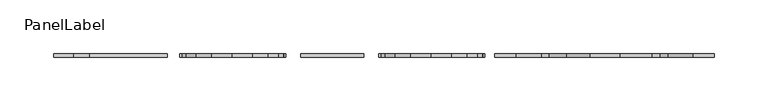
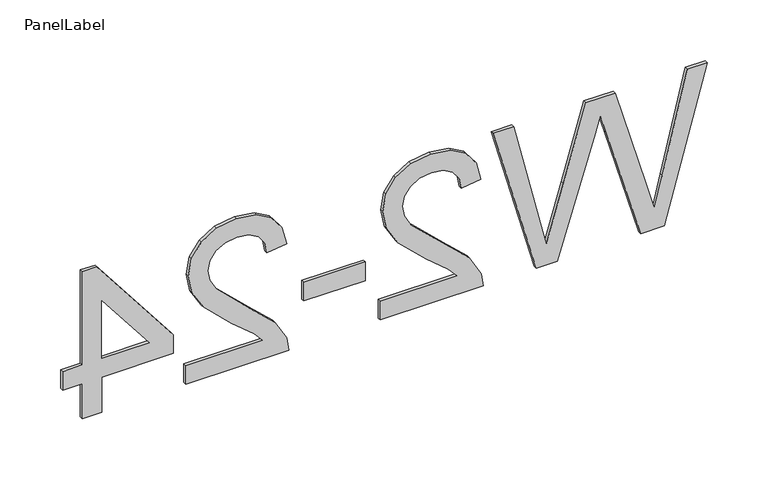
"""IFC4 building model written with IfcOpenShell, lengths in millimetres: fastener geometry, PanelLabel : Miranda."""

from ifc_helpers import new_model, si_unit, frame, origin, place, context, project, spatial, polyline, outline, extrude, source, transform, mapped, element, save


def panellabel_ff9b96a9(model_context):
    return source(origin(), model_context, "Body", "SweptSolid", [
        extrude(outline(polyline([(1310.9113766, 268.5683654), (1460.9667612, 309.4892308), (1460.9667612, 290.1461538), (1362.3463766, 266.4069231), (1331.9030112, 259.08), (1358.8294535, 251.2401923), (1460.9667612, 221.4928846), (1460.9667612, 193.6139423), (1386.9282035, 171.9995192), (1331.9030112, 155.9169231), (1361.4671458, 148.8098077), (1460.9667612, 124.8507692), (1460.9667612, 105.5076923), (1310.9113766, 146.4651923), (1310.9113766, 166.5043269), (1426.6767612, 202.4795192), (1442.8326266, 207.4984615), (1423.3796458, 213.1401923), (1310.9113766, 245.9281731), (1310.9113766, 268.5683654)])), frame((0.0, 100.80625, 0.0), z_axis=(0.0, 1.0, 0.0), x_axis=(0.0, 0.0, 1.0)), (0.0, 0.0, 1.0), 3.175),
        extrude(outline(polyline([(1329.6682997, -2.3446154), (1310.9113766, -2.3446154), (1310.9113766, 96.1292308), (1323.8433958, 94.1143269), (1343.7543093, 82.7209615), (1365.4969535, 59.2381731), (1396.7462804, 26.8531731), (1407.5168573, 20.7809856), (1417.9943573, 18.7569231), (1427.3865569, 20.6665024), (1435.1943093, 26.3952404), (1440.4559559, 35.2012861), (1442.2098381, 46.3427885), (1440.4971698, 58.0429688), (1435.359165, 67.1329327), (1427.1988045, 72.9990505), (1416.4190689, 75.0276923), (1418.7636843, 93.7846154), (1436.9069775, 89.2373438), (1450.1595497, 79.4055288), (1458.2649583, 64.8020553), (1460.9667612, 45.9398077), (1457.9627227, 26.9401803), (1448.9506073, 12.3641827), (1435.4873862, 3.0910457), (1419.1300304, 0.0), (1401.3439247, 3.33375), (1382.9533477, 14.4157212), (1357.254165, 41.2872115), (1339.211617, 62.865), (1329.6682997, 71.3275962), (1329.6682997, -2.3446154)])), frame((0.0, 100.80625, 0.0), z_axis=(0.0, 1.0, 0.0), x_axis=(0.0, 0.0, 1.0)), (0.0, 0.0, 1.0), 3.175),
        extrude(outline(polyline([(-75.0276923, 103.98125), (-16.4123077, 103.98125), (-16.4123077, 100.80625), (-75.0276923, 100.80625), (-75.0276923, 103.98125)])), frame((0.0, 0.0, 1355.4590689), z_axis=(0.0, 0.0, 1.0), x_axis=(1.0, 0.0, 0.0)), (0.0, 0.0, 1.0), 18.7569231),
        extrude(outline(polyline([(1329.6682997, -187.5692308), (1310.9113766, -187.5692308), (1310.9113766, -89.0953846), (1323.8433958, -91.1102885), (1343.7543093, -102.5036538), (1365.4969535, -125.9864423), (1396.7462804, -158.3714423), (1407.5168573, -164.4436298), (1417.9943573, -166.4676923), (1427.3865569, -164.558113), (1435.1943093, -158.829375), (1440.4559559, -150.0233293), (1442.2098381, -138.8818269), (1440.4971698, -127.1816466), (1435.359165, -118.0916827), (1427.1988045, -112.2255649), (1416.4190689, -110.1969231), (1418.7636843, -91.44), (1436.9069775, -95.9872716), (1450.1595497, -105.8190865), (1458.2649583, -120.4225601), (1460.9667612, -139.2848077), (1457.9627227, -158.2844351), (1448.9506073, -172.8604327), (1435.4873862, -182.1335697), (1419.1300304, -185.2246154), (1401.3439247, -181.8908654), (1382.9533477, -170.8088942), (1357.254165, -143.9374038), (1339.211617, -122.3596154), (1329.6682997, -113.8970192), (1329.6682997, -187.5692308)])), frame((0.0, 100.80625, 0.0), z_axis=(0.0, 1.0, 0.0), x_axis=(0.0, 0.0, 1.0)), (0.0, 0.0, 1.0), 3.175),
        extrude(outline(polyline([(1310.9113766, -267.2861538), (1346.0806073, -267.2861538), (1346.0806073, -199.2923077), (1364.8375304, -199.2923077), (1458.6221458, -271.9753846), (1458.6221458, -286.0430769), (1364.8375304, -286.0430769), (1364.8375304, -304.8), (1346.0806073, -304.8), (1346.0806073, -286.0430769), (1310.9113766, -286.0430769), (1310.9113766, -267.2861538)]), holes=[polyline([(1364.8375304, -267.2861538), (1422.793492, -267.2861538), (1364.8375304, -222.3721154), (1364.8375304, -267.2861538)])]), frame((0.0, 100.80625, 0.0), z_axis=(0.0, 1.0, 0.0), x_axis=(0.0, 0.0, 1.0)), (0.0, 0.0, 1.0), 3.175),
    ])


if __name__ == "__main__":
    model = new_model("IFC4")
    model_context = context("Model", 3, world=origin())
    ifc_project = project(units=[si_unit("LENGTHUNIT", "METRE", prefix="MILLI")], contexts=[model_context])
    site = spatial("IfcSite", under=ifc_project)
    building = spatial("IfcBuilding", under=site)
    placement = place(None, origin())
    panellabel_shape = panellabel_ff9b96a9(model_context)
    element("IfcFastener", 1, ObjectType="PanelLabel : Miranda", at=placement, inside=building, context=model_context, shape_type="MappedRepresentation", body=[
        mapped(panellabel_shape, transform((0.0, 0.0, 0.0), x_axis=(1.0, 0.0, 0.0), y_axis=(0.0, 1.0, 0.0), z_axis=(0.0, 0.0, 1.0))),
    ])
    save(model, "model.ifc")
